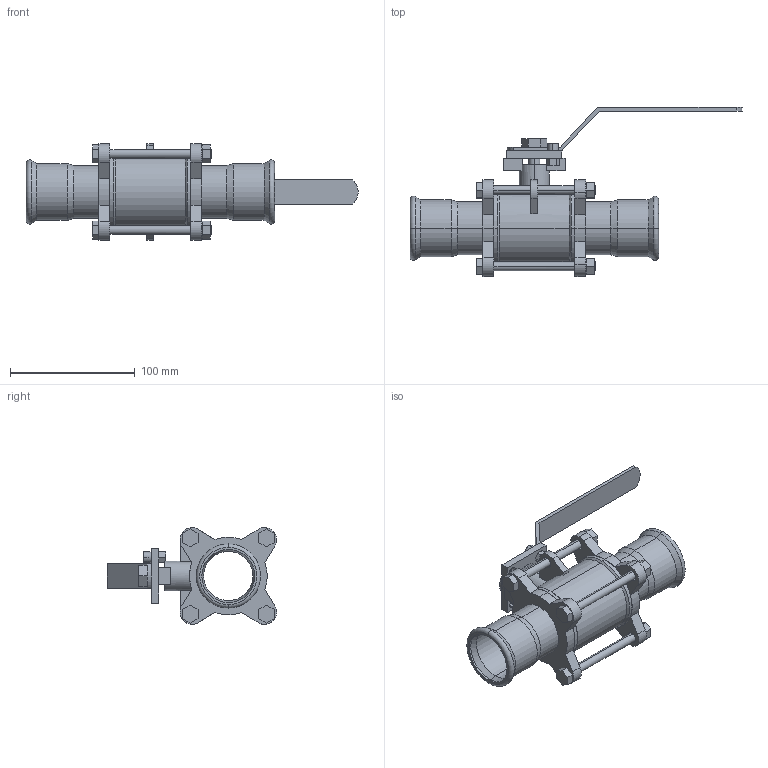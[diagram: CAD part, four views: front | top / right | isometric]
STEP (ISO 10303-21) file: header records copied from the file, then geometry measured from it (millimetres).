
FILE_DESCRIPTION (( 'STEP AP214' ), '1' );
FILE_NAME ('V4200PM.STEP', '2025-08-17T06:47:37', ( '' ), ( '' ), 'SwSTEP 2.0', 'SolidWorks 2020', '' );
FILE_SCHEMA (( 'AUTOMOTIVE_DESIGN' ));
Length unit declared in the file: millimetre
Products named in the file (1): V4200PM
Bounding box: 266.35 x 135.74 x 77.5 mm (x, y, z)
Volume: 238188.3 mm3; surface area: 117023.2 mm2
Topology: 3 solids, 3 shells, 537 faces, 1452 edges, 937 vertices
Faces by surface type: cylinder 257, plane 203, bspline 49, cone 20, torus 8
Entity records: 40312 total; most frequent: CARTESIAN_POINT 21700, ORIENTED_EDGE 2904, DIRECTION 2370, EDGE_CURVE 1452, VERTEX_POINT 937, AXIS2_PLACEMENT_3D 836, VECTOR 698, LINE 698
